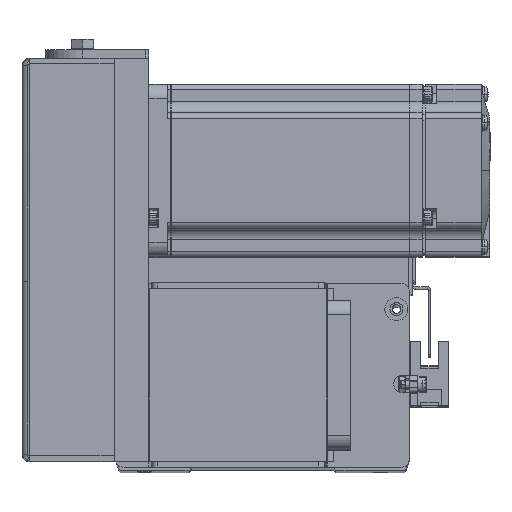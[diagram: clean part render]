
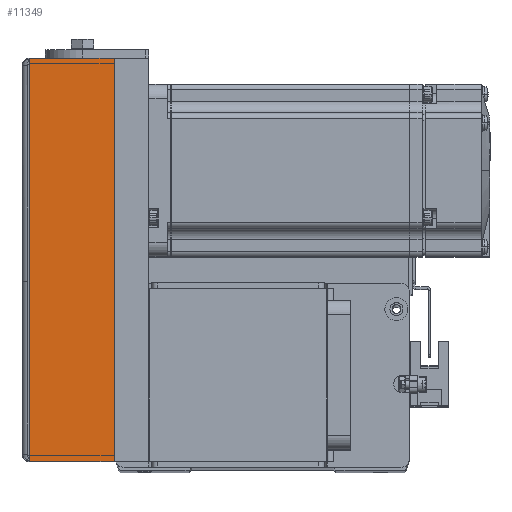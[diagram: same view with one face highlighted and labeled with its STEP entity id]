
A CAD part, top view. The second image highlights one B-rep face of the part: STEP entity #11349.
In plain terms, the highlighted planar face has unit normal (0, 0, 1).
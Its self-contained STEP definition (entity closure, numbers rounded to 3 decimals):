
#155 = CARTESIAN_POINT ( 'NONE',  ( -70., -29.5, 31. ) ) ;
#2687 = EDGE_CURVE ( 'NONE', #15172, #41972, #35167, .T. ) ;
#3761 = ORIENTED_EDGE ( 'NONE', *, *, #30386, .F. ) ;
#4225 = CARTESIAN_POINT ( 'NONE',  ( 70., -29.5, 31. ) ) ;
#5195 = CARTESIAN_POINT ( 'NONE',  ( 70., 0., 31. ) ) ;
#7104 = FACE_OUTER_BOUND ( 'NONE', #46434, .T. ) ;
#8428 = VECTOR ( 'NONE', #31332, 1000. ) ;
#8601 = ORIENTED_EDGE ( 'NONE', *, *, #2687, .F. ) ;
#9000 = AXIS2_PLACEMENT_3D ( 'NONE', #25757, #37516, #38032 ) ;
#9229 = DIRECTION ( 'NONE',  ( 0., 1., 0. ) ) ;
#9469 = ORIENTED_EDGE ( 'NONE', *, *, #46891, .T. ) ;
#10902 = VERTEX_POINT ( 'NONE', #30390 ) ;
#11349 = ADVANCED_FACE ( 'NONE', ( #7104 ), #14269, .F. ) ;
#13381 = VECTOR ( 'NONE', #9229, 1000. ) ;
#14269 = PLANE ( 'NONE',  #9000 ) ;
#15172 = VERTEX_POINT ( 'NONE', #21156 ) ;
#20332 = EDGE_CURVE ( 'NONE', #49625, #10902, #48445, .T. ) ;
#20821 = VECTOR ( 'NONE', #36662, 1000. ) ;
#21116 = CARTESIAN_POINT ( 'NONE',  ( 0., 0., 31. ) ) ;
#21156 = CARTESIAN_POINT ( 'NONE',  ( 70., -29.5, 31. ) ) ;
#24169 = DIRECTION ( 'NONE',  ( 0., 1., 0. ) ) ;
#25757 = CARTESIAN_POINT ( 'NONE',  ( 0., -30., 31. ) ) ;
#27455 = LINE ( 'NONE', #4225, #47359 ) ;
#30386 = EDGE_CURVE ( 'NONE', #41972, #10902, #48092, .T. ) ;
#30390 = CARTESIAN_POINT ( 'NONE',  ( -70., 0., 31. ) ) ;
#31332 = DIRECTION ( 'NONE',  ( -1., 0., 0. ) ) ;
#35167 = LINE ( 'NONE', #155, #8428 ) ;
#36566 = CARTESIAN_POINT ( 'NONE',  ( -70., -29.5, 31. ) ) ;
#36662 = DIRECTION ( 'NONE',  ( -1., 0., 0. ) ) ;
#37516 = DIRECTION ( 'NONE',  ( 0., 0., -1. ) ) ;
#38032 = DIRECTION ( 'NONE',  ( 0., -1., 0. ) ) ;
#41972 = VERTEX_POINT ( 'NONE', #44039 ) ;
#44039 = CARTESIAN_POINT ( 'NONE',  ( -70., -29.5, 31. ) ) ;
#45736 = ORIENTED_EDGE ( 'NONE', *, *, #20332, .T. ) ;
#46434 = EDGE_LOOP ( 'NONE', ( #8601, #9469, #45736, #3761 ) ) ;
#46891 = EDGE_CURVE ( 'NONE', #15172, #49625, #27455, .T. ) ;
#47359 = VECTOR ( 'NONE', #24169, 1000. ) ;
#48092 = LINE ( 'NONE', #36566, #13381 ) ;
#48445 = LINE ( 'NONE', #21116, #20821 ) ;
#49625 = VERTEX_POINT ( 'NONE', #5195 ) ;
